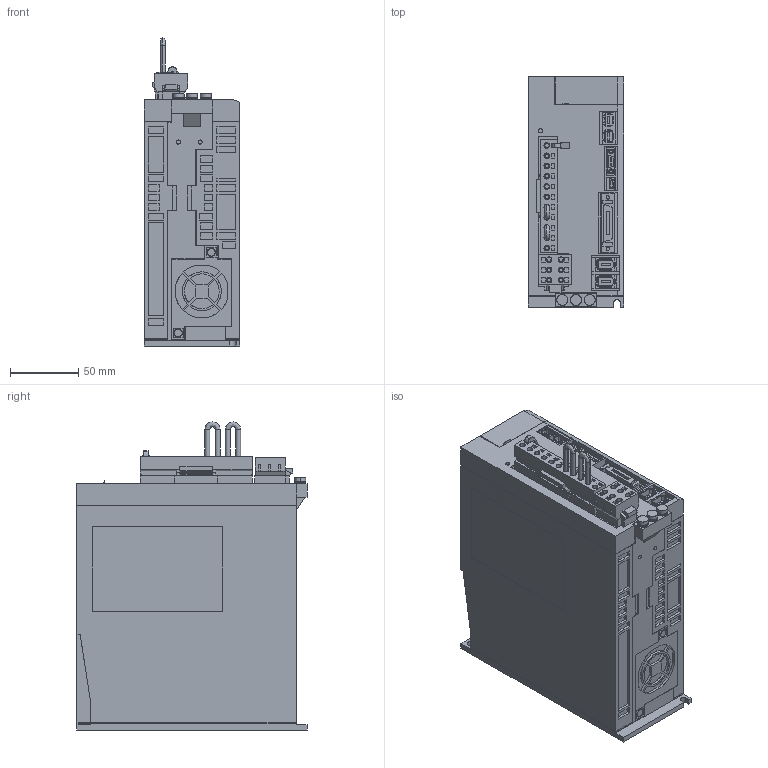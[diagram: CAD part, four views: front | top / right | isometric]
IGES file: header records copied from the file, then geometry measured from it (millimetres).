
Start section: SolidWorks IGES file using analytic representation for surfaces
Global section: file name: D:\YASKAWA\sgd7w_2r8a20a.IGS; native system: SolidWorks 2006 by SolidWorks Corporation; preprocessor: SolidWorks 2006 by SolidWorks Corporation; author: yamanouchi; date: 140306.133202; units: millimetre
Bounding box: 70 x 168 x 225 mm (x, y, z)
Surface area: 150310.3 mm2 (no closed solid volume)
Topology: 0 solids, 0 shells, 1783 faces, 13219 edges, 13219 vertices
Faces by surface type: bspline 1602, revolution 181
